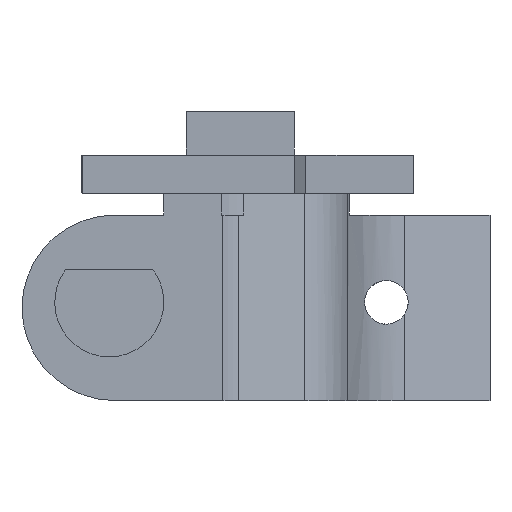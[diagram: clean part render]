
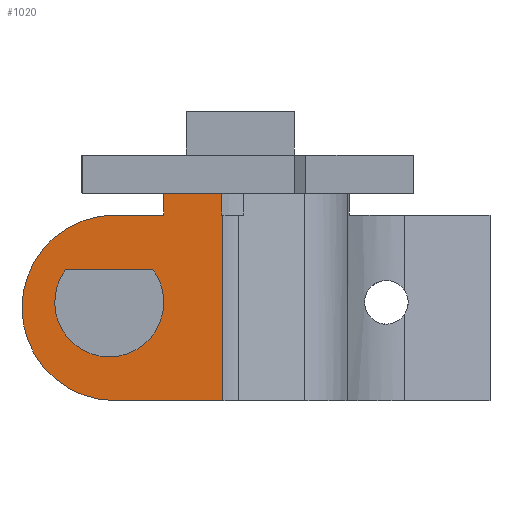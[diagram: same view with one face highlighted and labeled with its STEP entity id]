
A CAD part, front view. The second image highlights one B-rep face of the part: STEP entity #1020.
In plain terms, the highlighted planar face has unit normal (0, -1, 0).
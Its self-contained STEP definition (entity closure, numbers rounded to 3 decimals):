
#916 = VERTEX_POINT ( 'NONE', #2495 ) ;
#917 = EDGE_CURVE ( 'NONE', #957, #978, #2501, .T. ) ;
#919 = EDGE_CURVE ( 'NONE', #1006, #962, #2553, .T. ) ;
#920 = ORIENTED_EDGE ( 'NONE', *, *, #1017, .F. ) ;
#922 = VERTEX_POINT ( 'NONE', #2522 ) ;
#924 = VERTEX_POINT ( 'NONE', #2543 ) ;
#925 = ORIENTED_EDGE ( 'NONE', *, *, #1000, .T. ) ;
#926 = ORIENTED_EDGE ( 'NONE', *, *, #917, .T. ) ;
#932 = EDGE_LOOP ( 'NONE', ( #972, #1001, #1019, #964, #926, #925, #1004, #981 ) ) ;
#957 = VERTEX_POINT ( 'NONE', #2560 ) ;
#959 = VERTEX_POINT ( 'NONE', #2558 ) ;
#960 = EDGE_CURVE ( 'NONE', #916, #959, #2061, .T. ) ;
#961 = EDGE_CURVE ( 'NONE', #1002, #922, #2310, .T. ) ;
#962 = VERTEX_POINT ( 'NONE', #2559 ) ;
#963 = EDGE_LOOP ( 'NONE', ( #975, #920 ) ) ;
#964 = ORIENTED_EDGE ( 'NONE', *, *, #982, .T. ) ;
#972 = ORIENTED_EDGE ( 'NONE', *, *, #960, .T. ) ;
#975 = ORIENTED_EDGE ( 'NONE', *, *, #919, .F. ) ;
#977 = EDGE_CURVE ( 'NONE', #980, #924, #2610, .T. ) ;
#978 = VERTEX_POINT ( 'NONE', #2612 ) ;
#980 = VERTEX_POINT ( 'NONE', #2613 ) ;
#981 = ORIENTED_EDGE ( 'NONE', *, *, #1015, .F. ) ;
#982 = EDGE_CURVE ( 'NONE', #924, #957, #2601, .T. ) ;
#994 = EDGE_CURVE ( 'NONE', #980, #959, #2645, .T. ) ;
#1000 = EDGE_CURVE ( 'NONE', #978, #1002, #2617, .T. ) ;
#1001 = ORIENTED_EDGE ( 'NONE', *, *, #994, .F. ) ;
#1002 = VERTEX_POINT ( 'NONE', #2635 ) ;
#1004 = ORIENTED_EDGE ( 'NONE', *, *, #961, .T. ) ;
#1006 = VERTEX_POINT ( 'NONE', #2641 ) ;
#1015 = EDGE_CURVE ( 'NONE', #916, #922, #2659, .T. ) ;
#1017 = EDGE_CURVE ( 'NONE', #962, #1006, #2667, .T. ) ;
#1019 = ORIENTED_EDGE ( 'NONE', *, *, #977, .T. ) ;
#1020 = ADVANCED_FACE ( 'NONE', ( #2653, #2660 ), #2665, .T. ) ;
#2039 = VECTOR ( 'NONE', #2045, 1000. ) ;
#2043 = VECTOR ( 'NONE', #2046, 1000. ) ;
#2045 = DIRECTION ( 'NONE',  ( 0., 0., 1. ) ) ;
#2046 = DIRECTION ( 'NONE',  ( 0., 0., 1. ) ) ;
#2060 = CARTESIAN_POINT ( 'NONE',  ( -2.894, -10.431, 31.1 ) ) ;
#2061 = LINE ( 'NONE', #2060, #2043 ) ;
#2309 = CARTESIAN_POINT ( 'NONE',  ( -2.793, -10.431, 31.1 ) ) ;
#2310 = LINE ( 'NONE', #2309, #2039 ) ;
#2495 = CARTESIAN_POINT ( 'NONE',  ( -2.894, -10.431, 31.1 ) ) ;
#2497 = AXIS2_PLACEMENT_3D ( 'NONE', #2552, #2551, #2550 ) ;
#2501 = CIRCLE ( 'NONE', #2497, 8.5 ) ;
#2522 = CARTESIAN_POINT ( 'NONE',  ( -2.793, -10.431, 31.1 ) ) ;
#2543 = CARTESIAN_POINT ( 'NONE',  ( -8.209, -10.431, 31.1 ) ) ;
#2545 = VECTOR ( 'NONE', #2555, 1000. ) ;
#2550 = DIRECTION ( 'NONE',  ( 0., 0., 1. ) ) ;
#2551 = DIRECTION ( 'NONE',  ( 0., -1., 0. ) ) ;
#2552 = CARTESIAN_POINT ( 'NONE',  ( -12.709, -10.431, 22.6 ) ) ;
#2553 = LINE ( 'NONE', #2556, #2545 ) ;
#2555 = DIRECTION ( 'NONE',  ( -1., 0., 0. ) ) ;
#2556 = CARTESIAN_POINT ( 'NONE',  ( -17.209, -10.431, 26.1 ) ) ;
#2558 = CARTESIAN_POINT ( 'NONE',  ( -2.894, -10.431, 33.1 ) ) ;
#2559 = CARTESIAN_POINT ( 'NONE',  ( -17.209, -10.431, 26.1 ) ) ;
#2560 = CARTESIAN_POINT ( 'NONE',  ( -12.709, -10.431, 31.1 ) ) ;
#2596 = DIRECTION ( 'NONE',  ( -1., 0., 0. ) ) ;
#2597 = VECTOR ( 'NONE', #2596, 1000. ) ;
#2600 = CARTESIAN_POINT ( 'NONE',  ( -21.209, -10.431, 31.1 ) ) ;
#2601 = LINE ( 'NONE', #2600, #2597 ) ;
#2607 = DIRECTION ( 'NONE',  ( 0., 0., -1. ) ) ;
#2608 = VECTOR ( 'NONE', #2607, 1000. ) ;
#2609 = CARTESIAN_POINT ( 'NONE',  ( -8.209, -10.431, 33.1 ) ) ;
#2610 = LINE ( 'NONE', #2609, #2608 ) ;
#2612 = CARTESIAN_POINT ( 'NONE',  ( -12.709, -10.431, 14.1 ) ) ;
#2613 = CARTESIAN_POINT ( 'NONE',  ( -8.209, -10.431, 33.1 ) ) ;
#2617 = LINE ( 'NONE', #2681, #2680 ) ;
#2635 = CARTESIAN_POINT ( 'NONE',  ( -2.793, -10.431, 14.1 ) ) ;
#2640 = VECTOR ( 'NONE', #2642, 1000. ) ;
#2641 = CARTESIAN_POINT ( 'NONE',  ( -9.209, -10.431, 26.1 ) ) ;
#2642 = DIRECTION ( 'NONE',  ( 1., 0., 0. ) ) ;
#2643 = CARTESIAN_POINT ( 'NONE',  ( -2.793, -10.431, 33.1 ) ) ;
#2645 = LINE ( 'NONE', #2643, #2640 ) ;
#2650 = DIRECTION ( 'NONE',  ( 0., 0., 1. ) ) ;
#2651 = DIRECTION ( 'NONE',  ( 0., -1., 0. ) ) ;
#2652 = CARTESIAN_POINT ( 'NONE',  ( -13.209, -10.431, 23.1 ) ) ;
#2653 = FACE_OUTER_BOUND ( 'NONE', #932, .T. ) ;
#2654 = CARTESIAN_POINT ( 'NONE',  ( -21.209, -10.431, 31.1 ) ) ;
#2655 = AXIS2_PLACEMENT_3D ( 'NONE', #2654, #2675, #2705 ) ;
#2656 = DIRECTION ( 'NONE',  ( 1., 0., 0. ) ) ;
#2657 = VECTOR ( 'NONE', #2656, 1000. ) ;
#2658 = CARTESIAN_POINT ( 'NONE',  ( -2.894, -10.431, 31.1 ) ) ;
#2659 = LINE ( 'NONE', #2658, #2657 ) ;
#2660 = FACE_BOUND ( 'NONE', #963, .T. ) ;
#2664 = AXIS2_PLACEMENT_3D ( 'NONE', #2652, #2651, #2650 ) ;
#2665 = PLANE ( 'NONE',  #2655 ) ;
#2667 = CIRCLE ( 'NONE', #2664, 5. ) ;
#2675 = DIRECTION ( 'NONE',  ( 0., -1., 0. ) ) ;
#2679 = DIRECTION ( 'NONE',  ( 1., 0., 0. ) ) ;
#2680 = VECTOR ( 'NONE', #2679, 1000. ) ;
#2681 = CARTESIAN_POINT ( 'NONE',  ( -21.209, -10.431, 14.1 ) ) ;
#2705 = DIRECTION ( 'NONE',  ( 0., 0., -1. ) ) ;
